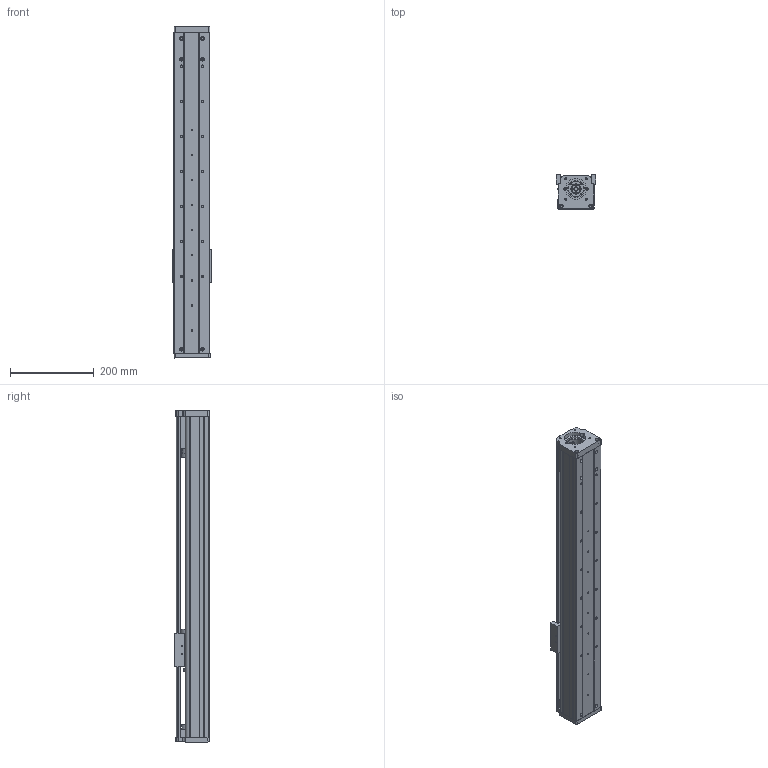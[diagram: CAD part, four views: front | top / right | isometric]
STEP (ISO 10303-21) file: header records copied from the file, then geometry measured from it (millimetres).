
FILE_DESCRIPTION (( 'STEP AP203' ), '1' );
FILE_NAME ('CF86-P550.STEP', '2016-02-22T05:50:05', ( 'Sky123.Org' ), ( 'Sky123.Org' ), 'SwSTEP 2.0', 'SolidWorks 2015', '' );
FILE_SCHEMA (( 'CONFIG_CONTROL_DESIGN' ));
Length unit declared in the file: millimetre
Products named in the file (18): CF86-P550; 02 86盓傅釱; 86-P420裔啣; angular contact ball bearings gb_Rolling bearings S7001 GB 292-94; 86-P420臏倰第; 95粣創裔啣; EGR15-P420絳寢; 坶踡蹟譫M12-1; EGW15CA賑輸; deep groove ball bearings gb_Rolling bearings 6001 GB 276-94; SFU1610-P420幗紩佪裝; CF86賑輸; SFU1610ĸ; 癹弇羲壽; 滅袉蝶菜; 86-60侜督萇儂釱; 01 86嘐隅釱; 86耜啣
Assembly tree (19 placements, depth 2):
  CF86-P550
    86耜啣
    86-P420裔啣
    86-P420臏倰第
    EGR15-P420絳寢
    EGW15CA賑輸
    SFU1610-P420幗紩佪裝
    SFU1610ĸ
    滅袉蝶菜  x2
    01 86嘐隅釱
    02 86盓傅釱
    angular contact ball bearings gb_Rolling bearings S7001 GB 292-94  x2
    95粣創裔啣
    坶踡蹟譫M12-1
    deep groove ball bearings gb_Rolling bearings 6001 GB 276-94
    CF86賑輸
    癹弇羲壽
    86-60侜督萇儂釱
Bounding box: 94 x 82.35 x 795 mm (x, y, z)
Volume: 2115363.7 mm3; surface area: 744269.5 mm2
Topology: 19 solids, 19 shells, 1280 faces, 4062 edges, 2715 vertices
Faces by surface type: cylinder 666, plane 363, torus 159, sphere 84, bspline 4, cone 4
Entity records: 70116 total; most frequent: CARTESIAN_POINT 37814, ORIENTED_EDGE 6768, DIRECTION 6092, EDGE_CURVE 3384, AXIS2_PLACEMENT_3D 2390, VERTEX_POINT 2258, EDGE_LOOP 1420, LINE 1312
